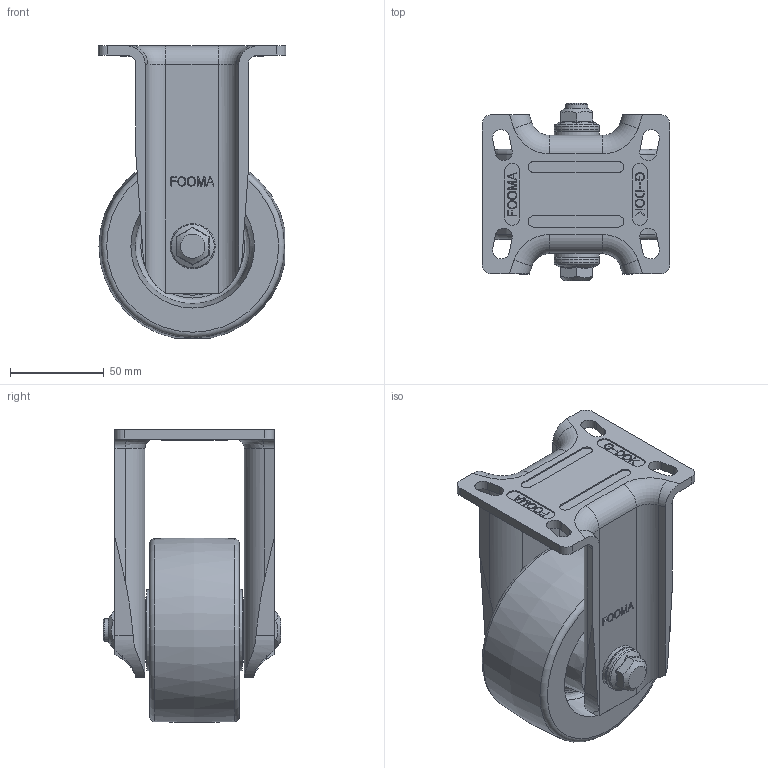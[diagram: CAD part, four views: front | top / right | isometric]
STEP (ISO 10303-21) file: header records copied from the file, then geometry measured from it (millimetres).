
FILE_DESCRIPTION((''),'2;1');
FILE_NAME('C:\Documents and Settings\Administrator\바탕 화면\3D STEP\PH-SERIES\PH-100\PH-100A-RF.stp','2010-12-27T14:46:27',('Administrator'),(''),'Autodesk Inventor 2009','Autodesk Inventor 2009','');
FILE_SCHEMA(('AUTOMOTIVE_DESIGN { 1 0 10303 214 1 1 1 1 }'));
Length unit declared in the file: millimetre
Products named in the file (1): PH-100A-RF
Bounding box: 100 x 94.8 x 156.14 mm (x, y, z)
Volume: 419142.4 mm3; surface area: 104777.9 mm2
Topology: 2 solids, 6 shells, 638 faces, 1714 edges, 1135 vertices
Faces by surface type: bspline 337, plane 211, cylinder 67, torus 12, cone 11
Full cylindrical faces by diameter (mm): 12 x1, 15 x2, 15.2 x2, 21.5 x1, 24 x4, 30.5 x2, 31 x1, 35 x2
Entity records: 23353 total; most frequent: CARTESIAN_POINT 9781, ORIENTED_EDGE 3334, DIRECTION 1744, EDGE_CURVE 1667, VERTEX_POINT 1125, VECTOR 788, LINE 788, EDGE_LOOP 742
